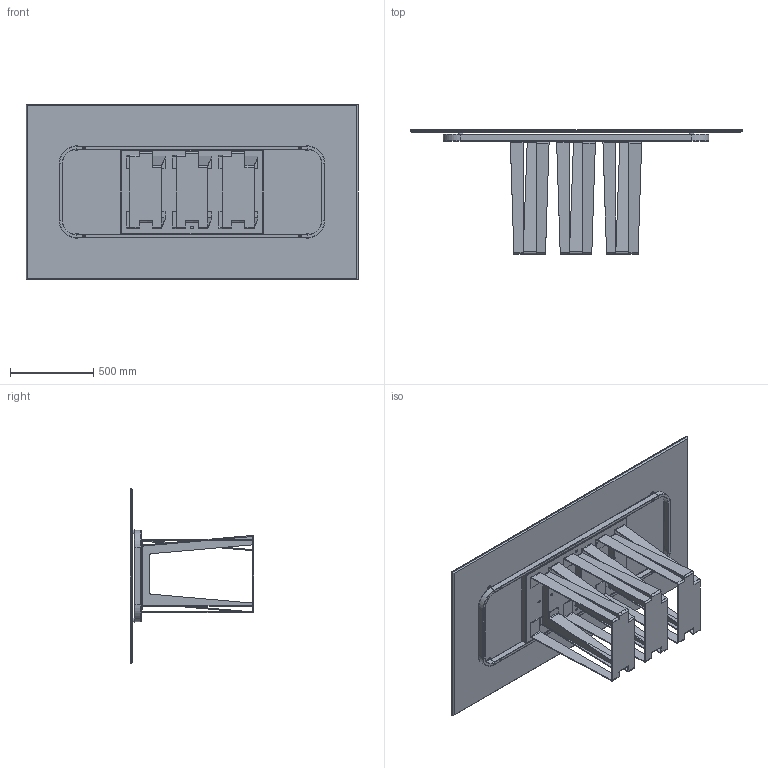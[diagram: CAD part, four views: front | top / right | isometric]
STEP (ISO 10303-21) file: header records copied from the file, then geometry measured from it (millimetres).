
FILE_DESCRIPTION (( 'STEP AP203' ), '1' );
FILE_NAME ('NA21C.STEP', '2024-08-07T14:42:07', ( '' ), ( '' ), 'SwSTEP 2.0', 'SolidWorks 2022', '' );
FILE_SCHEMA (( 'CONFIG_CONTROL_DESIGN' ));
Length unit declared in the file: millimetre
Products named in the file (8): TTAV01_01-01-TELAIO UNIVERSALE X TAVOLI 180 240cm_Default<A macchina>; TTAV01_02-01-VASSOIO IRRIGIDIMENTO TELAIO UNIVERSALE; NAB000000-00-NARCISO BASE SING. GREZZA; 434070-00-PIEDINO TPV GOMMA NERO D. 30x8max18; M8xXXmm_M8x20mm; TTAV01-01-TELAIO UNIVERSALE X TAVOLI 180 240cm; NA21C; K2XCMXX-00-Piani Rettangolari in ceramica_2000 x 1060
Assembly tree (17 placements, depth 3):
  NA21C
    K2XCMXX-00-Piani Rettangolari in ceramica_2000 x 1060
    434070-00-PIEDINO TPV GOMMA NERO D. 30x8max18  x4
    TTAV01-01-TELAIO UNIVERSALE X TAVOLI 180 240cm
      TTAV01_01-01-TELAIO UNIVERSALE X TAVOLI 180 240cm_Default<A macchina>
      TTAV01_02-01-VASSOIO IRRIGIDIMENTO TELAIO UNIVERSALE
    NAB000000-00-NARCISO BASE SING. GREZZA  x3
    M8xXXmm_M8x20mm  x6
Bounding box: 2000 x 746 x 1060 mm (x, y, z)
Volume: 45319129.6 mm3; surface area: 13457374.9 mm2
Topology: 31 solids, 31 shells, 1005 faces, 2463 edges, 1514 vertices
Faces by surface type: plane 551, cylinder 274, torus 72, cone 72, bspline 36
Entity records: 17834 total; most frequent: CARTESIAN_POINT 3255, DIRECTION 2864, ORIENTED_EDGE 2766, EDGE_CURVE 1383, AXIS2_PLACEMENT_3D 999, VERTEX_POINT 882, VECTOR 866, LINE 866
